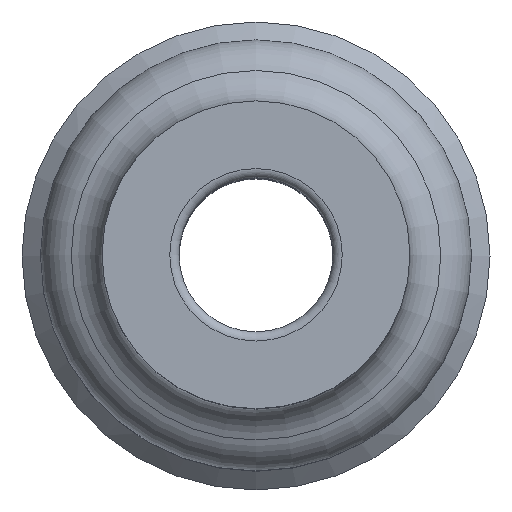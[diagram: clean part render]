
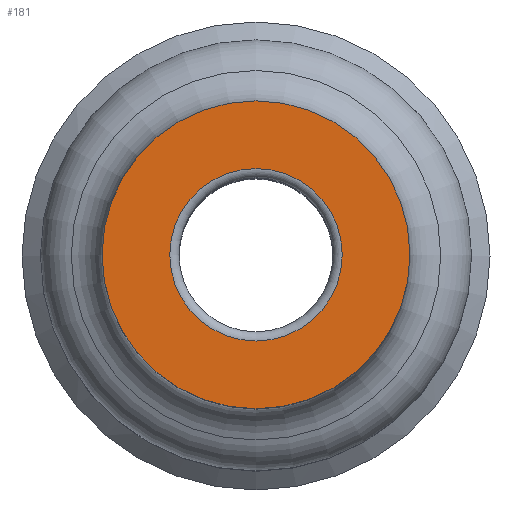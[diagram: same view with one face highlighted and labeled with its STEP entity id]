
A CAD part, top view. The second image highlights one B-rep face of the part: STEP entity #181.
In plain terms, the highlighted planar face has unit normal (0, 0, 1).
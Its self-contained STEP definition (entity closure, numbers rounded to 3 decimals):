
#181=ADVANCED_FACE('',(#449,#450),#451,.T.);
#449=FACE_BOUND('',#723,.T.);
#450=FACE_OUTER_BOUND('',#724,.T.);
#451=PLANE('',#725);
#723=EDGE_LOOP('',(#1478));
#724=EDGE_LOOP('',(#1479));
#725=AXIS2_PLACEMENT_3D('',#1480,#1481,#1482);
#1478=ORIENTED_EDGE('',*,*,#1717,.T.);
#1479=ORIENTED_EDGE('',*,*,#1628,.F.);
#1480=CARTESIAN_POINT('',(5.001,9.494,9.389));
#1481=DIRECTION('',(0.0,0.,1.0));
#1482=DIRECTION('',(0.0,-1.0,0.));
#1628=EDGE_CURVE('',#1945,#1945,#1946,.T.);
#1717=EDGE_CURVE('',#2096,#2096,#2097,.T.);
#1945=VERTEX_POINT('',#2792);
#1946=CIRCLE('',#2793,5.);
#2096=VERTEX_POINT('',#2943);
#2097=CIRCLE('',#2944,2.8);
#2792=CARTESIAN_POINT('',(0.001,14.494,9.389));
#2793=AXIS2_PLACEMENT_3D('',#3185,#3186,#3187);
#2943=CARTESIAN_POINT('',(0.001,6.694,9.389));
#2944=AXIS2_PLACEMENT_3D('',#3452,#3453,#3454);
#3185=CARTESIAN_POINT('',(0.001,9.494,9.389));
#3186=DIRECTION('',(0.0,0.,-1.0));
#3187=DIRECTION('',(0.0,1.0,0.));
#3452=CARTESIAN_POINT('',(0.001,9.494,9.389));
#3453=DIRECTION('',(0.0,0.,-1.0));
#3454=DIRECTION('',(0.0,-1.0,0.));
